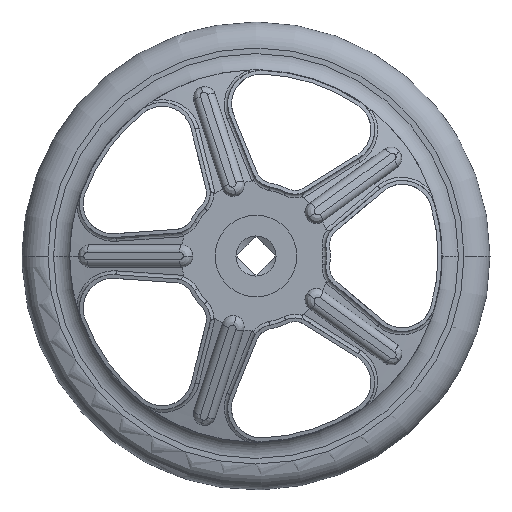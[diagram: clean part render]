
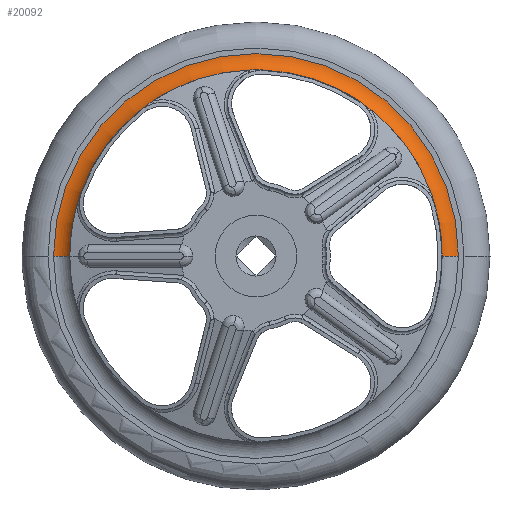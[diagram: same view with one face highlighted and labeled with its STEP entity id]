
A CAD part, left-side view. The second image highlights one B-rep face of the part: STEP entity #20092.
In plain terms, the highlighted toroidal (fillet/blend) face has major radius 136.248 mm and minor radius 12.5 mm.
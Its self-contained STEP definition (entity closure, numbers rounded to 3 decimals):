
#231 = CARTESIAN_POINT ( 'NONE',  ( 28.5, 0., 0. ) ) ;
#868 = TOROIDAL_SURFACE ( 'NONE', #13933, 136.248, 12.5 ) ;
#1359 = DIRECTION ( 'NONE',  ( 0., 1., 0. ) ) ;
#1427 = DIRECTION ( 'NONE',  ( 0., 1., 0. ) ) ;
#1475 = EDGE_CURVE ( 'NONE', #17668, #14290, #19393, .T. ) ;
#1763 = DIRECTION ( 'NONE',  ( 1., 0., 0. ) ) ;
#3389 = CIRCLE ( 'NONE', #14858, 12.5 ) ;
#3413 = DIRECTION ( 'NONE',  ( 0., 0., 1. ) ) ;
#3582 = ORIENTED_EDGE ( 'NONE', *, *, #8111, .F. ) ;
#3691 = CARTESIAN_POINT ( 'NONE',  ( 28.5, 136.248, 0. ) ) ;
#5075 = CIRCLE ( 'NONE', #12929, 125.282 ) ;
#5106 = DIRECTION ( 'NONE',  ( 0., 0., -1. ) ) ;
#5686 = EDGE_CURVE ( 'NONE', #7361, #10352, #3389, .T. ) ;
#6025 = AXIS2_PLACEMENT_3D ( 'NONE', #231, #1763, #14366 ) ;
#6783 = ORIENTED_EDGE ( 'NONE', *, *, #8530, .T. ) ;
#7361 = VERTEX_POINT ( 'NONE', #3691 ) ;
#8111 = EDGE_CURVE ( 'NONE', #7361, #17668, #9300, .T. ) ;
#8530 = EDGE_CURVE ( 'NONE', #10352, #14290, #5075, .T. ) ;
#9139 = CARTESIAN_POINT ( 'NONE',  ( 16., 0., 0. ) ) ;
#9206 = DIRECTION ( 'NONE',  ( 1., 0., 0. ) ) ;
#9300 = CIRCLE ( 'NONE', #6025, 136.248 ) ;
#9439 = ORIENTED_EDGE ( 'NONE', *, *, #5686, .T. ) ;
#9570 = DIRECTION ( 'NONE',  ( 0., -1., 0. ) ) ;
#9609 = DIRECTION ( 'NONE',  ( -1., 0., 0. ) ) ;
#10352 = VERTEX_POINT ( 'NONE', #12213 ) ;
#11459 = EDGE_LOOP ( 'NONE', ( #11915, #3582, #9439, #6783 ) ) ;
#11915 = ORIENTED_EDGE ( 'NONE', *, *, #1475, .F. ) ;
#12213 = CARTESIAN_POINT ( 'NONE',  ( 22., 125.282, 0. ) ) ;
#12491 = CARTESIAN_POINT ( 'NONE',  ( 22., 0., 0. ) ) ;
#12811 = AXIS2_PLACEMENT_3D ( 'NONE', #17286, #3413, #9570 ) ;
#12929 = AXIS2_PLACEMENT_3D ( 'NONE', #12491, #9206, #1427 ) ;
#13096 = CARTESIAN_POINT ( 'NONE',  ( 16., 136.248, 0. ) ) ;
#13665 = FACE_OUTER_BOUND ( 'NONE', #11459, .T. ) ;
#13933 = AXIS2_PLACEMENT_3D ( 'NONE', #9139, #15408, #1359 ) ;
#14290 = VERTEX_POINT ( 'NONE', #18430 ) ;
#14366 = DIRECTION ( 'NONE',  ( 0., 1., 0. ) ) ;
#14503 = CARTESIAN_POINT ( 'NONE',  ( 28.5, -136.248, 0. ) ) ;
#14858 = AXIS2_PLACEMENT_3D ( 'NONE', #13096, #5106, #9609 ) ;
#15408 = DIRECTION ( 'NONE',  ( 1., 0., 0. ) ) ;
#17286 = CARTESIAN_POINT ( 'NONE',  ( 16., -136.248, 0. ) ) ;
#17668 = VERTEX_POINT ( 'NONE', #14503 ) ;
#18430 = CARTESIAN_POINT ( 'NONE',  ( 22., -125.282, 0. ) ) ;
#19393 = CIRCLE ( 'NONE', #12811, 12.5 ) ;
#20092 = ADVANCED_FACE ( 'NONE', ( #13665 ), #868, .F. ) ;
